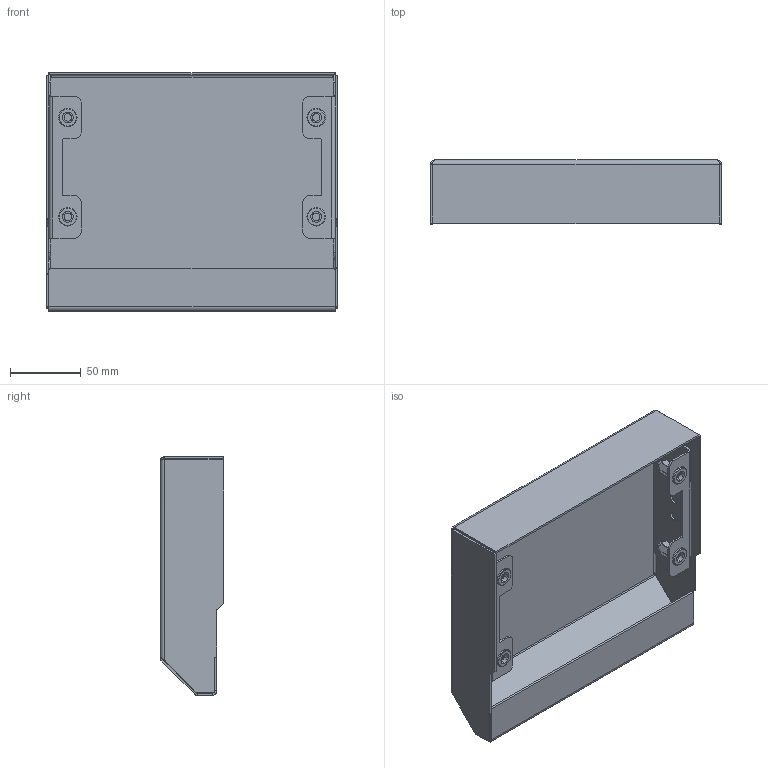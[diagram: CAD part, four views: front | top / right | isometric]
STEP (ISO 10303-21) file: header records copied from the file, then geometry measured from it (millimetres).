
FILE_DESCRIPTION (( 'STEP AP214' ), '1' );
FILE_NAME ('RKC 20.15 S ﾊ鰀靍裲 鈞隆.STEP', '2023-07-29T11:52:12', ( '' ), ( '' ), 'SwSTEP 2.0', 'SolidWorks 2019', '' );
FILE_SCHEMA (( 'AUTOMOTIVE_DESIGN' ));
Length unit declared in the file: millimetre
Products named in the file (4): RKC Z 01.002 S 扰鍙欙樥燲RKC 15; RKC Y.Z 01.001 S 扻踑謥獥RKC 20.15 S; Çàêëåïêà Ì6 ãàå÷íàÿ Rivkle 2335 106 0030_1,4; RKC 20.15 S ﾊ鰀靍裲 鈞隆
Assembly tree (7 placements, depth 2):
  RKC 20.15 S ﾊ鰀靍裲 鈞隆
    RKC Y.Z 01.001 S 扻踑謥獥RKC 20.15 S
    RKC Z 01.002 S 扰鍙欙樥燲RKC 15  x2
    Çàêëåïêà Ì6 ãàå÷íàÿ Rivkle 2335 106 0030_1,4  x4
Bounding box: 205 x 45 x 168 mm (x, y, z)
Volume: 120287.5 mm3; surface area: 162883.5 mm2
Topology: 7 solids, 7 shells, 687 faces, 1667 edges, 1010 vertices
Faces by surface type: cylinder 219, plane 202, bspline 162, torus 64, sphere 24, cone 16
Entity records: 10797 total; most frequent: CARTESIAN_POINT 3744, ORIENTED_EDGE 1502, DIRECTION 1375, EDGE_CURVE 751, AXIS2_PLACEMENT_3D 513, VERTEX_POINT 462, VECTOR 349, LINE 349
